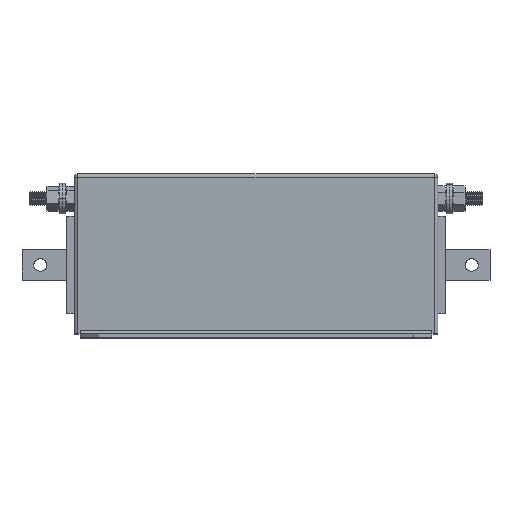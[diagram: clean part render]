
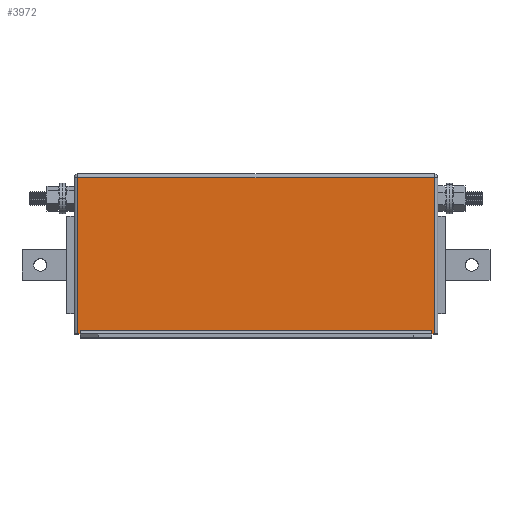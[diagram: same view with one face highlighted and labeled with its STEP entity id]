
A CAD part, top view. The second image highlights one B-rep face of the part: STEP entity #3972.
In plain terms, the highlighted planar face has unit normal (0, 0, 1).
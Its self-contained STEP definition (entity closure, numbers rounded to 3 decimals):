
#16 = VECTOR ( 'NONE', #2624, 1000. ) ;
#49 = CARTESIAN_POINT ( 'NONE',  ( 297., 0., 0. ) ) ;
#272 = ORIENTED_EDGE ( 'NONE', *, *, #3844, .T. ) ;
#407 = LINE ( 'NONE', #3243, #8004 ) ;
#502 = VECTOR ( 'NONE', #4384, 1000. ) ;
#530 = EDGE_CURVE ( 'NONE', #1051, #2472, #6356, .T. ) ;
#824 = EDGE_CURVE ( 'NONE', #2472, #7863, #407, .T. ) ;
#865 = CARTESIAN_POINT ( 'NONE',  ( 3., 0., 0. ) ) ;
#887 = EDGE_CURVE ( 'NONE', #7863, #7569, #998, .T. ) ;
#946 = DIRECTION ( 'NONE',  ( 0., -1., 0. ) ) ;
#998 = LINE ( 'NONE', #7404, #6389 ) ;
#1042 = LINE ( 'NONE', #3833, #502 ) ;
#1051 = VERTEX_POINT ( 'NONE', #5380 ) ;
#1136 = VERTEX_POINT ( 'NONE', #49 ) ;
#1357 = VECTOR ( 'NONE', #5703, 1000. ) ;
#1424 = CARTESIAN_POINT ( 'NONE',  ( 297., 129., 0. ) ) ;
#1483 = FACE_OUTER_BOUND ( 'NONE', #1795, .T. ) ;
#1528 = VECTOR ( 'NONE', #5935, 1000. ) ;
#1587 = VERTEX_POINT ( 'NONE', #4840 ) ;
#1605 = ORIENTED_EDGE ( 'NONE', *, *, #7078, .T. ) ;
#1795 = EDGE_LOOP ( 'NONE', ( #7926, #6005, #4661, #3682, #1605, #272, #7003, #3765 ) ) ;
#2111 = CARTESIAN_POINT ( 'NONE',  ( 0., 129., 0. ) ) ;
#2126 = VECTOR ( 'NONE', #4948, 1000. ) ;
#2472 = VERTEX_POINT ( 'NONE', #5272 ) ;
#2624 = DIRECTION ( 'NONE',  ( 0., -1., 0. ) ) ;
#2809 = LINE ( 'NONE', #4293, #3188 ) ;
#2855 = LINE ( 'NONE', #2111, #2126 ) ;
#2886 = CARTESIAN_POINT ( 'NONE',  ( 0., 132., 0. ) ) ;
#3188 = VECTOR ( 'NONE', #4857, 1000. ) ;
#3243 = CARTESIAN_POINT ( 'NONE',  ( 295., 3., 0. ) ) ;
#3402 = CARTESIAN_POINT ( 'NONE',  ( 295., 3., 0. ) ) ;
#3682 = ORIENTED_EDGE ( 'NONE', *, *, #5666, .T. ) ;
#3694 = CARTESIAN_POINT ( 'NONE',  ( 5., -3., 0. ) ) ;
#3765 = ORIENTED_EDGE ( 'NONE', *, *, #530, .T. ) ;
#3833 = CARTESIAN_POINT ( 'NONE',  ( 0., 0., 0. ) ) ;
#3844 = EDGE_CURVE ( 'NONE', #1587, #5236, #6760, .T. ) ;
#3911 = AXIS2_PLACEMENT_3D ( 'NONE', #2886, #6414, #8532 ) ;
#3972 = ADVANCED_FACE ( 'NONE', ( #1483 ), #9139, .F. ) ;
#4293 = CARTESIAN_POINT ( 'NONE',  ( 0., 0., 0. ) ) ;
#4384 = DIRECTION ( 'NONE',  ( 1., 0., 0. ) ) ;
#4661 = ORIENTED_EDGE ( 'NONE', *, *, #7122, .T. ) ;
#4840 = CARTESIAN_POINT ( 'NONE',  ( 3., 129., 0. ) ) ;
#4857 = DIRECTION ( 'NONE',  ( 1., 0., 0. ) ) ;
#4948 = DIRECTION ( 'NONE',  ( -1., 0., 0. ) ) ;
#5236 = VERTEX_POINT ( 'NONE', #865 ) ;
#5272 = CARTESIAN_POINT ( 'NONE',  ( 5., 3., 0. ) ) ;
#5380 = CARTESIAN_POINT ( 'NONE',  ( 5., 0., 0. ) ) ;
#5573 = VERTEX_POINT ( 'NONE', #1424 ) ;
#5666 = EDGE_CURVE ( 'NONE', #1136, #5573, #5888, .T. ) ;
#5703 = DIRECTION ( 'NONE',  ( 0., 1., 0. ) ) ;
#5888 = LINE ( 'NONE', #8841, #1528 ) ;
#5935 = DIRECTION ( 'NONE',  ( 0., 1., 0. ) ) ;
#6005 = ORIENTED_EDGE ( 'NONE', *, *, #887, .T. ) ;
#6024 = EDGE_CURVE ( 'NONE', #5236, #1051, #2809, .T. ) ;
#6085 = DIRECTION ( 'NONE',  ( 1., 0., 0. ) ) ;
#6356 = LINE ( 'NONE', #3694, #1357 ) ;
#6389 = VECTOR ( 'NONE', #946, 1000. ) ;
#6414 = DIRECTION ( 'NONE',  ( 0., 0., -1. ) ) ;
#6760 = LINE ( 'NONE', #9013, #16 ) ;
#7003 = ORIENTED_EDGE ( 'NONE', *, *, #6024, .T. ) ;
#7078 = EDGE_CURVE ( 'NONE', #5573, #1587, #2855, .T. ) ;
#7122 = EDGE_CURVE ( 'NONE', #7569, #1136, #1042, .T. ) ;
#7404 = CARTESIAN_POINT ( 'NONE',  ( 295., -3., 0. ) ) ;
#7569 = VERTEX_POINT ( 'NONE', #8680 ) ;
#7863 = VERTEX_POINT ( 'NONE', #3402 ) ;
#7926 = ORIENTED_EDGE ( 'NONE', *, *, #824, .T. ) ;
#8004 = VECTOR ( 'NONE', #6085, 1000. ) ;
#8532 = DIRECTION ( 'NONE',  ( 0., -1., 0. ) ) ;
#8680 = CARTESIAN_POINT ( 'NONE',  ( 295., 0., 0. ) ) ;
#8841 = CARTESIAN_POINT ( 'NONE',  ( 297., 132., 0. ) ) ;
#9013 = CARTESIAN_POINT ( 'NONE',  ( 3., 132., 0. ) ) ;
#9139 = PLANE ( 'NONE',  #3911 ) ;
